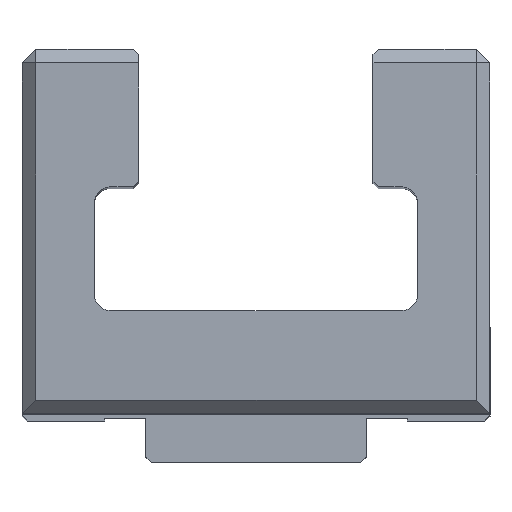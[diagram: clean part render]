
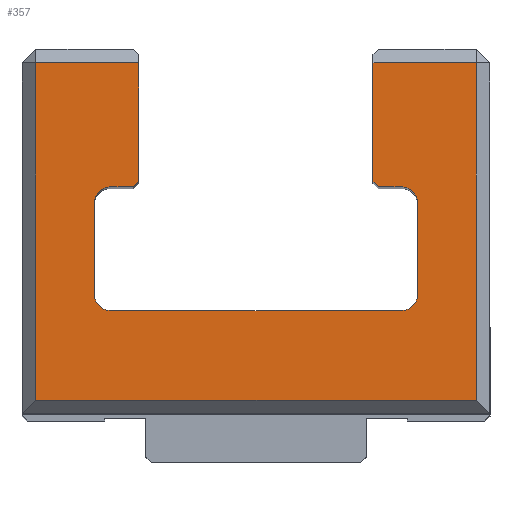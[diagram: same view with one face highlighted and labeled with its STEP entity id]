
A CAD part, top view. The second image highlights one B-rep face of the part: STEP entity #357.
In plain terms, the highlighted planar face has unit normal (0, 0, 1).
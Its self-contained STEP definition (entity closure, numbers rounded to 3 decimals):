
#1 = CIRCLE ( 'NONE', #861, 1.2 ) ;
#9 = EDGE_CURVE ( 'NONE', #1013, #795, #771, .T. ) ;
#36 = DIRECTION ( 'NONE',  ( 0., 0., -1. ) ) ;
#51 = EDGE_CURVE ( 'NONE', #1234, #350, #279, .T. ) ;
#57 = CARTESIAN_POINT ( 'NONE',  ( 16., 30., 0. ) ) ;
#86 = EDGE_CURVE ( 'NONE', #2061, #391, #1953, .T. ) ;
#101 = LINE ( 'NONE', #757, #1442 ) ;
#136 = VECTOR ( 'NONE', #742, 1000. ) ;
#198 = CARTESIAN_POINT ( 'NONE',  ( 10.55, 12.2, 0. ) ) ;
#200 = CARTESIAN_POINT ( 'NONE',  ( -11.75, 18.8, 0. ) ) ;
#241 = DIRECTION ( 'NONE',  ( 0., 1., 0. ) ) ;
#270 = CIRCLE ( 'NONE', #1472, 1.2 ) ;
#279 = LINE ( 'NONE', #1338, #1813 ) ;
#290 = ORIENTED_EDGE ( 'NONE', *, *, #1318, .T. ) ;
#297 = CARTESIAN_POINT ( 'NONE',  ( -16., 4.5, 0. ) ) ;
#298 = DIRECTION ( 'NONE',  ( -1., 0., 0. ) ) ;
#301 = CARTESIAN_POINT ( 'NONE',  ( 8.5, 29., 0. ) ) ;
#350 = VERTEX_POINT ( 'NONE', #297 ) ;
#354 = VERTEX_POINT ( 'NONE', #953 ) ;
#355 = CARTESIAN_POINT ( 'NONE',  ( -10.55, 18.8, 0. ) ) ;
#357 = ADVANCED_FACE ( 'NONE', ( #1568 ), #1255, .F. ) ;
#380 = VECTOR ( 'NONE', #623, 1000. ) ;
#391 = VERTEX_POINT ( 'NONE', #1244 ) ;
#435 = VERTEX_POINT ( 'NONE', #2100 ) ;
#437 = CARTESIAN_POINT ( 'NONE',  ( -17., 29., 0. ) ) ;
#441 = CARTESIAN_POINT ( 'NONE',  ( 8.5, 29., 0. ) ) ;
#495 = CARTESIAN_POINT ( 'NONE',  ( 10.55, 20., 0. ) ) ;
#507 = DIRECTION ( 'NONE',  ( 1., 0., 0. ) ) ;
#555 = VECTOR ( 'NONE', #731, 1000. ) ;
#556 = CARTESIAN_POINT ( 'NONE',  ( -8.9, 20., 0. ) ) ;
#568 = DIRECTION ( 'NONE',  ( 0., 0., -1. ) ) ;
#596 = VERTEX_POINT ( 'NONE', #1869 ) ;
#604 = EDGE_CURVE ( 'NONE', #1665, #680, #1700, .T. ) ;
#616 = EDGE_CURVE ( 'NONE', #2028, #1528, #1778, .T. ) ;
#623 = DIRECTION ( 'NONE',  ( 0.707, -0.707, 0. ) ) ;
#680 = VERTEX_POINT ( 'NONE', #940 ) ;
#731 = DIRECTION ( 'NONE',  ( 0., -1., 0. ) ) ;
#742 = DIRECTION ( 'NONE',  ( 1., 0., 0. ) ) ;
#746 = DIRECTION ( 'NONE',  ( -1., 0., 0. ) ) ;
#757 = CARTESIAN_POINT ( 'NONE',  ( -10.55, 4.5, 0. ) ) ;
#762 = EDGE_CURVE ( 'NONE', #1372, #1402, #1696, .T. ) ;
#771 = LINE ( 'NONE', #301, #1134 ) ;
#789 = CARTESIAN_POINT ( 'NONE',  ( -10.55, 18.8, 0. ) ) ;
#790 = LINE ( 'NONE', #437, #1745 ) ;
#795 = VERTEX_POINT ( 'NONE', #441 ) ;
#802 = LINE ( 'NONE', #1108, #2027 ) ;
#805 = CARTESIAN_POINT ( 'NONE',  ( -10.55, 11., 0. ) ) ;
#813 = EDGE_CURVE ( 'NONE', #1528, #354, #1272, .T. ) ;
#837 = ORIENTED_EDGE ( 'NONE', *, *, #1123, .T. ) ;
#838 = DIRECTION ( 'NONE',  ( 0., 0., -1. ) ) ;
#847 = CARTESIAN_POINT ( 'NONE',  ( 8.5, 20.4, 0. ) ) ;
#852 = CARTESIAN_POINT ( 'NONE',  ( -8.5, 20.4, 0. ) ) ;
#861 = AXIS2_PLACEMENT_3D ( 'NONE', #1328, #1976, #507 ) ;
#902 = EDGE_CURVE ( 'NONE', #795, #1372, #1573, .T. ) ;
#940 = CARTESIAN_POINT ( 'NONE',  ( -8.5, 29., 0. ) ) ;
#953 = CARTESIAN_POINT ( 'NONE',  ( -10.55, 11., 0. ) ) ;
#978 = CARTESIAN_POINT ( 'NONE',  ( 11.75, 12.2, 0. ) ) ;
#989 = VERTEX_POINT ( 'NONE', #1016 ) ;
#1012 = CARTESIAN_POINT ( 'NONE',  ( -8.9, 20., 0. ) ) ;
#1013 = VERTEX_POINT ( 'NONE', #1661 ) ;
#1016 = CARTESIAN_POINT ( 'NONE',  ( -11.75, 12.2, 0. ) ) ;
#1028 = DIRECTION ( 'NONE',  ( 1., 0., 0. ) ) ;
#1031 = AXIS2_PLACEMENT_3D ( 'NONE', #198, #36, #1028 ) ;
#1094 = ORIENTED_EDGE ( 'NONE', *, *, #902, .T. ) ;
#1108 = CARTESIAN_POINT ( 'NONE',  ( -11.75, 12.2, 0. ) ) ;
#1113 = CARTESIAN_POINT ( 'NONE',  ( 16., 4.5, 0. ) ) ;
#1118 = CARTESIAN_POINT ( 'NONE',  ( -16., 29., 0. ) ) ;
#1123 = EDGE_CURVE ( 'NONE', #1729, #1013, #2058, .T. ) ;
#1134 = VECTOR ( 'NONE', #1607, 1000. ) ;
#1147 = EDGE_CURVE ( 'NONE', #354, #989, #270, .T. ) ;
#1189 = ORIENTED_EDGE ( 'NONE', *, *, #1283, .T. ) ;
#1200 = ORIENTED_EDGE ( 'NONE', *, *, #2120, .T. ) ;
#1214 = ORIENTED_EDGE ( 'NONE', *, *, #762, .T. ) ;
#1234 = VERTEX_POINT ( 'NONE', #1118 ) ;
#1244 = CARTESIAN_POINT ( 'NONE',  ( -10.55, 20., 0. ) ) ;
#1249 = EDGE_CURVE ( 'NONE', #989, #2061, #802, .T. ) ;
#1255 = PLANE ( 'NONE',  #1672 ) ;
#1270 = LINE ( 'NONE', #978, #555 ) ;
#1272 = LINE ( 'NONE', #805, #1310 ) ;
#1281 = ORIENTED_EDGE ( 'NONE', *, *, #1416, .T. ) ;
#1283 = EDGE_CURVE ( 'NONE', #680, #1234, #790, .T. ) ;
#1288 = CARTESIAN_POINT ( 'NONE',  ( 10.55, 11., 0. ) ) ;
#1291 = DIRECTION ( 'NONE',  ( 0., 1., 0. ) ) ;
#1295 = DIRECTION ( 'NONE',  ( -1., 0., 0. ) ) ;
#1299 = ORIENTED_EDGE ( 'NONE', *, *, #1147, .T. ) ;
#1310 = VECTOR ( 'NONE', #1295, 1000. ) ;
#1318 = EDGE_CURVE ( 'NONE', #350, #1729, #101, .T. ) ;
#1328 = CARTESIAN_POINT ( 'NONE',  ( 10.55, 18.8, 0. ) ) ;
#1333 = ORIENTED_EDGE ( 'NONE', *, *, #1913, .T. ) ;
#1338 = CARTESIAN_POINT ( 'NONE',  ( -16., 3.5, 0. ) ) ;
#1367 = CARTESIAN_POINT ( 'NONE',  ( -8.5, 20.4, 0. ) ) ;
#1372 = VERTEX_POINT ( 'NONE', #847 ) ;
#1401 = ORIENTED_EDGE ( 'NONE', *, *, #1482, .T. ) ;
#1402 = VERTEX_POINT ( 'NONE', #2014 ) ;
#1415 = DIRECTION ( 'NONE',  ( 1., 0., 0. ) ) ;
#1416 = EDGE_CURVE ( 'NONE', #2052, #1665, #2025, .T. ) ;
#1442 = VECTOR ( 'NONE', #1415, 1000. ) ;
#1459 = ORIENTED_EDGE ( 'NONE', *, *, #9, .T. ) ;
#1472 = AXIS2_PLACEMENT_3D ( 'NONE', #1524, #568, #746 ) ;
#1479 = DIRECTION ( 'NONE',  ( 0., -1., 0. ) ) ;
#1482 = EDGE_CURVE ( 'NONE', #391, #2052, #2067, .T. ) ;
#1489 = DIRECTION ( 'NONE',  ( -1., 0., 0. ) ) ;
#1524 = CARTESIAN_POINT ( 'NONE',  ( -10.55, 12.2, 0. ) ) ;
#1528 = VERTEX_POINT ( 'NONE', #1288 ) ;
#1552 = ORIENTED_EDGE ( 'NONE', *, *, #616, .T. ) ;
#1568 = FACE_OUTER_BOUND ( 'NONE', #1947, .T. ) ;
#1571 = ORIENTED_EDGE ( 'NONE', *, *, #813, .T. ) ;
#1573 = LINE ( 'NONE', #1911, #1645 ) ;
#1600 = ORIENTED_EDGE ( 'NONE', *, *, #2020, .T. ) ;
#1602 = DIRECTION ( 'NONE',  ( 0., 0., -1. ) ) ;
#1607 = DIRECTION ( 'NONE',  ( -1., 0., 0. ) ) ;
#1645 = VECTOR ( 'NONE', #1812, 1000. ) ;
#1661 = CARTESIAN_POINT ( 'NONE',  ( 16., 29., 0. ) ) ;
#1665 = VERTEX_POINT ( 'NONE', #852 ) ;
#1672 = AXIS2_PLACEMENT_3D ( 'NONE', #789, #1602, #2076 ) ;
#1696 = LINE ( 'NONE', #1922, #380 ) ;
#1700 = LINE ( 'NONE', #1367, #1955 ) ;
#1717 = ORIENTED_EDGE ( 'NONE', *, *, #51, .T. ) ;
#1729 = VERTEX_POINT ( 'NONE', #1113 ) ;
#1732 = ORIENTED_EDGE ( 'NONE', *, *, #604, .T. ) ;
#1745 = VECTOR ( 'NONE', #298, 1000. ) ;
#1761 = CARTESIAN_POINT ( 'NONE',  ( -10.55, 20., 0. ) ) ;
#1778 = CIRCLE ( 'NONE', #1031, 1.2 ) ;
#1790 = ORIENTED_EDGE ( 'NONE', *, *, #1249, .T. ) ;
#1812 = DIRECTION ( 'NONE',  ( 0., -1., 0. ) ) ;
#1813 = VECTOR ( 'NONE', #1479, 1000. ) ;
#1857 = DIRECTION ( 'NONE',  ( 1., 0., 0. ) ) ;
#1864 = DIRECTION ( 'NONE',  ( 0., 1., 0. ) ) ;
#1869 = CARTESIAN_POINT ( 'NONE',  ( 10.55, 20., 0. ) ) ;
#1911 = CARTESIAN_POINT ( 'NONE',  ( 8.5, 20.4, 0. ) ) ;
#1912 = ORIENTED_EDGE ( 'NONE', *, *, #86, .T. ) ;
#1913 = EDGE_CURVE ( 'NONE', #596, #435, #1, .T. ) ;
#1922 = CARTESIAN_POINT ( 'NONE',  ( 8.9, 20., 0. ) ) ;
#1947 = EDGE_LOOP ( 'NONE', ( #1732, #1189, #1717, #290, #837, #1459, #1094, #1214, #1200, #1333, #1600, #1552, #1571, #1299, #1790, #1912, #1401, #1281 ) ) ;
#1953 = CIRCLE ( 'NONE', #2082, 1.2 ) ;
#1955 = VECTOR ( 'NONE', #241, 1000. ) ;
#1958 = VECTOR ( 'NONE', #1864, 1000. ) ;
#1965 = LINE ( 'NONE', #495, #2026 ) ;
#1976 = DIRECTION ( 'NONE',  ( 0., 0., -1. ) ) ;
#2014 = CARTESIAN_POINT ( 'NONE',  ( 8.9, 20., 0. ) ) ;
#2020 = EDGE_CURVE ( 'NONE', #435, #2028, #1270, .T. ) ;
#2025 = LINE ( 'NONE', #556, #2088 ) ;
#2026 = VECTOR ( 'NONE', #1857, 1000. ) ;
#2027 = VECTOR ( 'NONE', #1291, 1000. ) ;
#2028 = VERTEX_POINT ( 'NONE', #2042 ) ;
#2042 = CARTESIAN_POINT ( 'NONE',  ( 11.75, 12.2, 0. ) ) ;
#2045 = DIRECTION ( 'NONE',  ( 0.707, 0.707, 0. ) ) ;
#2052 = VERTEX_POINT ( 'NONE', #1012 ) ;
#2058 = LINE ( 'NONE', #57, #1958 ) ;
#2061 = VERTEX_POINT ( 'NONE', #200 ) ;
#2067 = LINE ( 'NONE', #1761, #136 ) ;
#2076 = DIRECTION ( 'NONE',  ( -1., 0., 0. ) ) ;
#2082 = AXIS2_PLACEMENT_3D ( 'NONE', #355, #838, #1489 ) ;
#2088 = VECTOR ( 'NONE', #2045, 1000. ) ;
#2100 = CARTESIAN_POINT ( 'NONE',  ( 11.75, 18.8, 0. ) ) ;
#2120 = EDGE_CURVE ( 'NONE', #1402, #596, #1965, .T. ) ;
